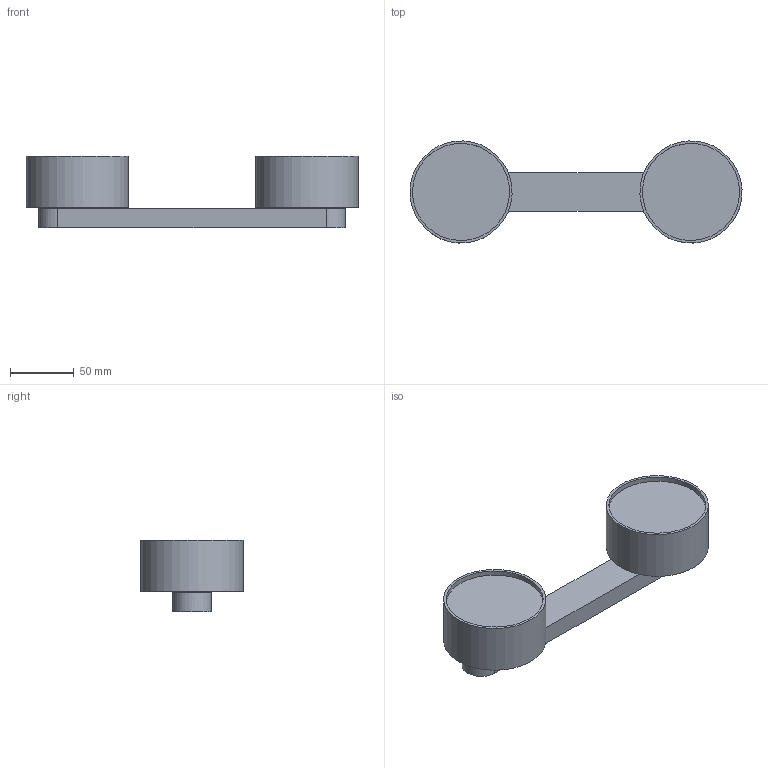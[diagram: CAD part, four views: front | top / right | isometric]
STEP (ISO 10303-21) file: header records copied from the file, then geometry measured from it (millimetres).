
FILE_DESCRIPTION(/* description */ (''),/* implementation_level */ '2;1');
FILE_NAME(/* name */ 'D:\TK Lighting\2021\Space\3399\Space 3399.stp',/* time_stamp */ '2021-02-01T19:37:29+01:00',/* author */ ('Admin'),/* organization */ (''),/* preprocessor_version */ 'ST-DEVELOPER v16.5',/* originating_system */ 'Autodesk Inventor 2017',/* authorisation */ '');
FILE_SCHEMA (('AUTOMOTIVE_DESIGN { 1 0 10303 214 3 1 1 }'));
Length unit declared in the file: millimetre
Products named in the file (3): Space 3399; Zawiesie; klosz
Assembly tree (3 placements, depth 2):
  Space 3399
    Zawiesie
    klosz  x2
Bounding box: 259.88 x 79.89 x 56.1 mm (x, y, z)
Volume: 471107.8 mm3; surface area: 63919 mm2
Topology: 3 solids, 3 shells, 24 faces, 38 edges, 26 vertices
Faces by surface type: plane 14, cylinder 10
Full cylindrical faces by diameter (mm): 10 x4, 76 x2, 80 x2
Entity records: 494 total; most frequent: DIRECTION 82, CARTESIAN_POINT 63, ORIENTED_EDGE 44, AXIS2_PLACEMENT_3D 37, EDGE_LOOP 26, EDGE_CURVE 22, STYLED_ITEM 19, VERTEX_POINT 18
